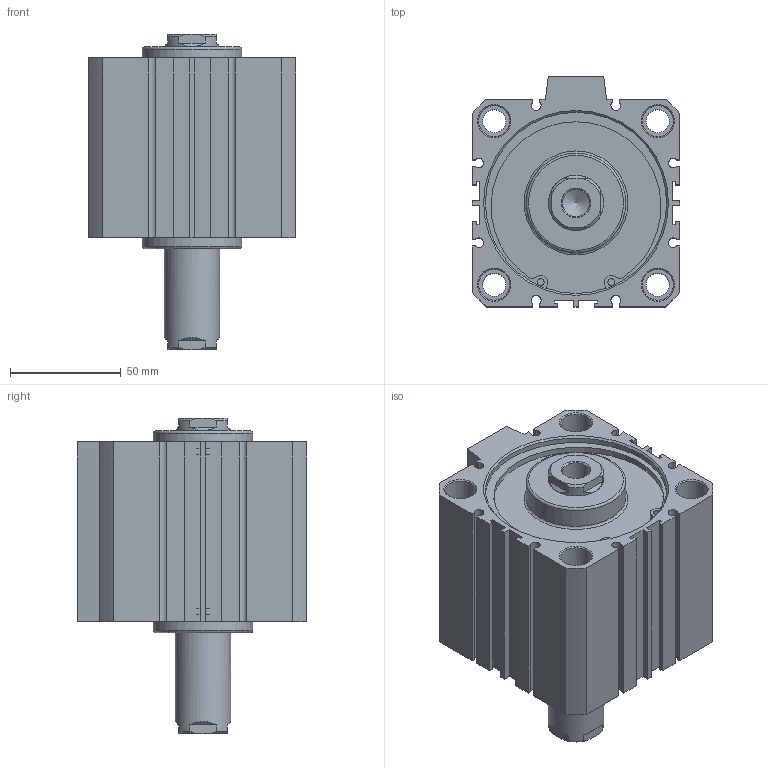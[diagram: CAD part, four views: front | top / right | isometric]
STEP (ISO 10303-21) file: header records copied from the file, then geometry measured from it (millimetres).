
FILE_DESCRIPTION((''),'2;1');
FILE_NAME('I:\3D電子目錄\氣缸\JDD\JDD\JDD80\JDD80x40.stp','2007-02-08T11:48:14',('662F206'),(''),'Autodesk Inventor 10','Autodesk Inventor 10','');
FILE_SCHEMA(('AUTOMOTIVE_DESIGN { 1 0 10303 214 1 1 1 1 }'));
Length unit declared in the file: millimetre
Products named in the file (3): JDD80; R 形環 82
Assembly tree (3 placements, depth 2):
  JDD80
    JDD80
    R 形環 82  x2
Bounding box: 94 x 104 x 142.7 mm (x, y, z)
Volume: 668517.7 mm3; surface area: 92239.6 mm2
Topology: 3 solids, 3 shells, 200 faces, 502 edges, 330 vertices
Faces by surface type: plane 116, cylinder 52, cone 24, bspline 6, torus 2
Full cylindrical faces by diameter (mm): 3.1 x4, 3.5 x2, 10.4 x4, 14 x8, 25 x2, 45 x2, 82 x4, 85.5 x2
Entity records: 5511 total; most frequent: CARTESIAN_POINT 1094, DIRECTION 908, ORIENTED_EDGE 824, EDGE_CURVE 412, AXIS2_PLACEMENT_3D 324, VERTEX_POINT 300, EDGE_LOOP 272, VECTOR 260
